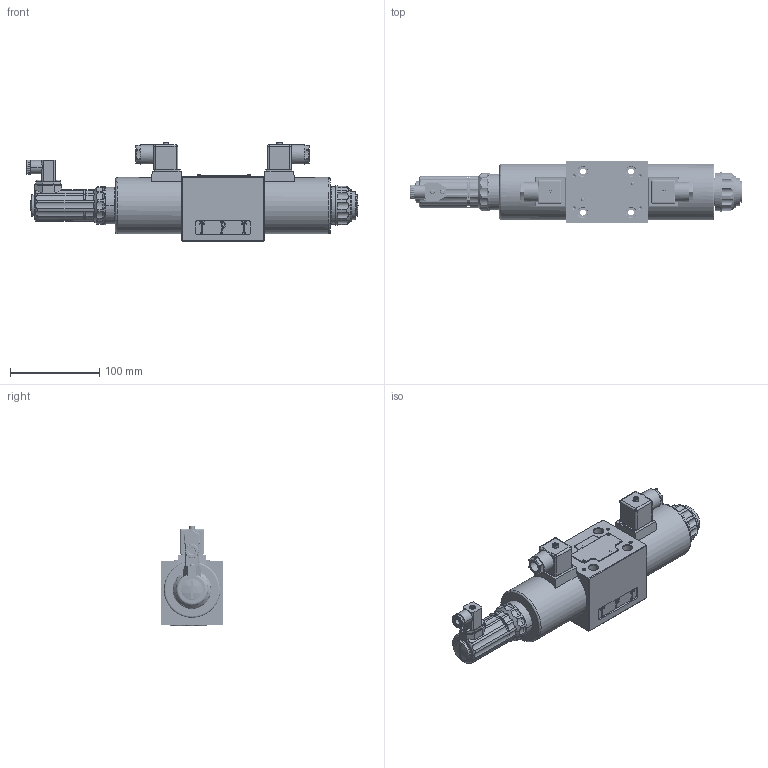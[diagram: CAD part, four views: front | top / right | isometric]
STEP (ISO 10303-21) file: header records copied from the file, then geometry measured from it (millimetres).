
FILE_DESCRIPTION(/* description */ (''),/* implementation_level */ '2;1');
FILE_NAME(/* name */ '4WRE10-2XJ比例换向阀.prt.stp',/* time_stamp */ '2022-03-30T18:36:05+08:00',/* author */ (''),/* organization */ (''),/* preprocessor_version */ 'ST-DEVELOPER v16.7',/* originating_system */ 'SIEMENS PLM Software NX 12.0',/* authorisation */ '');
FILE_SCHEMA (('AUTOMOTIVE_DESIGN { 1 0 10303 214 3 1 1 1 }'));
Products named in the file (1): 4WRE10-2XJ比例换向阀
Bounding box: 371.2 x 70 x 111.5 mm (x, y, z)
Volume: 739429.7 mm3; surface area: 203403.2 mm2
Topology: 32 solids, 43 shells, 1569 faces, 4034 edges, 2589 vertices
Faces by surface type: plane 733, cylinder 575, bspline 97, torus 91, cone 51, sphere 21, extrusion 1
Full cylindrical faces by diameter (mm): 0.8 x1, 1.8 x6, 2 x3, 2.55 x38, 2.8 x26, 3 x80, 3.2 x56, 3.5 x2, 3.6 x6, 5 x5, 6 x4, 6.5 x4, 6.6 x4, 11 x4, 12.085 x2, 15.7 x5, 16 x1, 16.5 x2, 17 x2, 18.376 x3, 21 x2, 21.4 x2, 22 x2, 24 x3, 31.5 x5, 32 x2, 33 x1, 36 x1, 42 x1, 44 x1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
Entity records: 110016 total; most frequent: CARTESIAN_POINT 78057, ORIENTED_EDGE 6350, DIRECTION 6227, EDGE_CURVE 3175, AXIS2_PLACEMENT_3D 2204, VERTEX_POINT 2132, VECTOR 1819, LINE 1818
